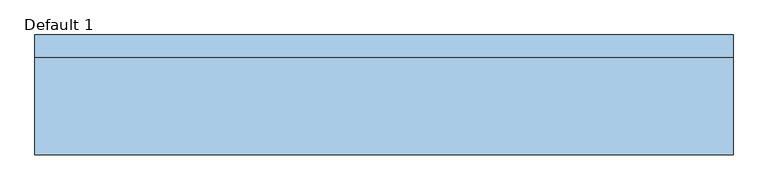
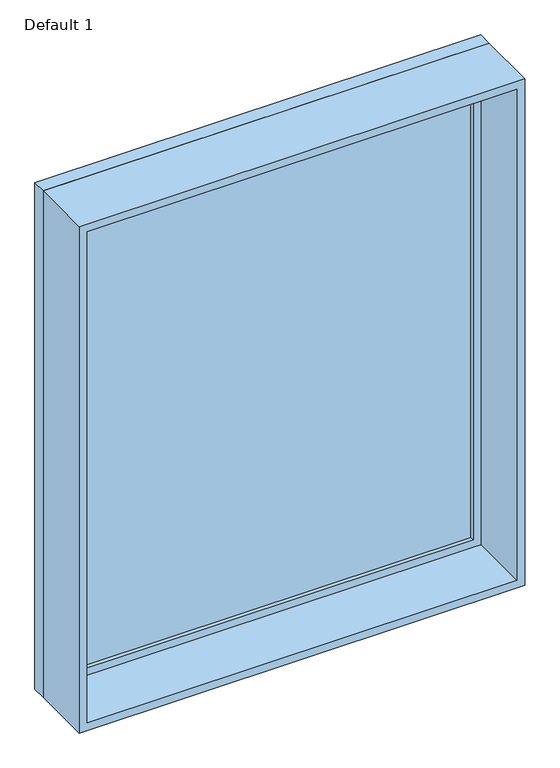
"""IFC4 building model written with IfcOpenShell, lengths in millimetres: window geometry, Planitar-Fixed : Default 1."""

from ifc_helpers import new_model, si_unit, frame, origin, place, context, project, spatial, polyline, outline, extrude, source, transform, mapped, element, save


def default_1_84ce0bf7(model_context):
    return source(origin(), model_context, "Body", "SweptSolid", [
        extrude(outline(polyline([(3029.0, -870.0), (933.4, -870.0), (933.4, 870.0), (3029.0, 870.0), (3029.0, -870.0)]), holes=[polyline([(2985.0, -826.0), (2985.0, 826.0), (977.4, 826.0), (977.4, -826.0), (2985.0, -826.0)])]), frame((0.0, 108.7, 0.0), z_axis=(0.0, 1.0, 0.0), x_axis=(0.0, 0.0, 1.0)), (0.0, 0.0, 1.0), 44.0),
        extrude(outline(polyline([(3048.0, -889.0), (914.4, -889.0), (914.4, 889.0), (3048.0, 889.0), (3048.0, -889.0)]), holes=[polyline([(3029.0, -870.0), (3029.0, 870.0), (933.4, 870.0), (933.4, -870.0), (3029.0, -870.0)])]), frame((0.0, 108.7, 0.0), z_axis=(0.0, 1.0, 0.0), x_axis=(0.0, 0.0, 1.0)), (0.0, 0.0, 1.0), 56.7),
        extrude(outline(polyline([(3048.0, -889.0), (914.4, -889.0), (914.4, 889.0), (3048.0, 889.0), (3048.0, -889.0)]), holes=[polyline([(3016.0, -857.0), (3016.0, 857.0), (946.4, 857.0), (946.4, -857.0), (3016.0, -857.0)])]), frame((0.0, -139.4, 0.0), z_axis=(0.0, 1.0, 0.0), x_axis=(0.0, 0.0, 1.0)), (0.0, 0.0, 1.0), 248.1),
        extrude(outline(polyline([(-826.0, 136.7), (826.0, 136.7), (826.0, 124.7), (-826.0, 124.7), (-826.0, 136.7)])), frame((0.0, 0.0, 977.4), z_axis=(0.0, 0.0, 1.0), x_axis=(1.0, 0.0, 0.0)), (0.0, 0.0, 1.0), 2007.6),
    ])


if __name__ == "__main__":
    model = new_model("IFC4")
    model_context = context("Model", 3, world=origin())
    ifc_project = project(units=[si_unit("LENGTHUNIT", "METRE", prefix="MILLI")], contexts=[model_context])
    site = spatial("IfcSite", under=ifc_project)
    building = spatial("IfcBuilding", under=site)
    placement = place(None, origin())
    default_1_shape = default_1_84ce0bf7(model_context)
    element("IfcWindow", 1, ObjectType="Planitar-Fixed : Default 1", at=placement, inside=building, context=model_context, shape_type="MappedRepresentation", body=[
        mapped(default_1_shape, transform((0.0, 0.0, 0.0), x_axis=(1.0, 0.0, 0.0), y_axis=(0.0, 1.0, 0.0), z_axis=(0.0, 0.0, 1.0))),
    ])
    save(model, "model.ifc")
